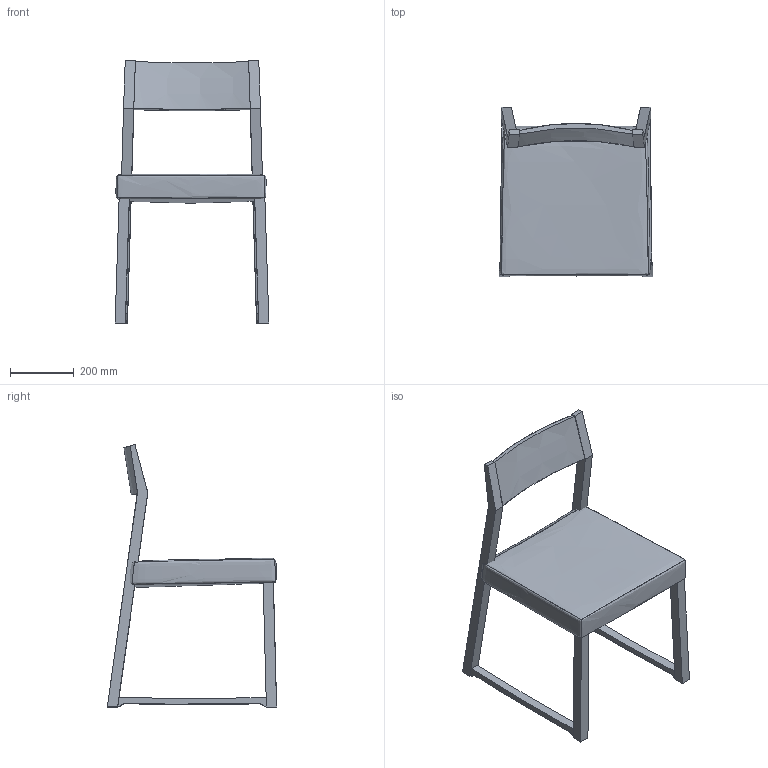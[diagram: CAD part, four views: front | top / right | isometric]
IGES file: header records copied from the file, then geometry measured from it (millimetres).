
Global section: file name: W:\Archivio Clienti\08\coll c0238 LINEA\p2117 Sedia\Sedia LINEA IGES.igs; native system: Rhinoceros ( Dec 12 2013 ); preprocessor: Trout Lake IGES 012 Dec 12 2013; date: 140210.090105; units: millimetre
Bounding box: 483.73 x 532.68 x 826.2 mm (x, y, z)
Surface area: 1234789.6 mm2 (no closed solid volume)
Topology: 0 solids, 0 shells, 62 faces, 299 edges, 299 vertices
Faces by surface type: bspline 62
